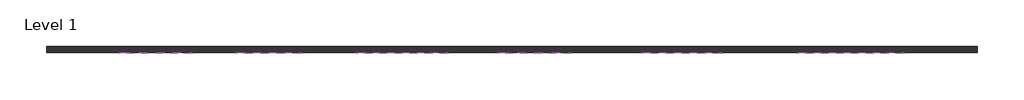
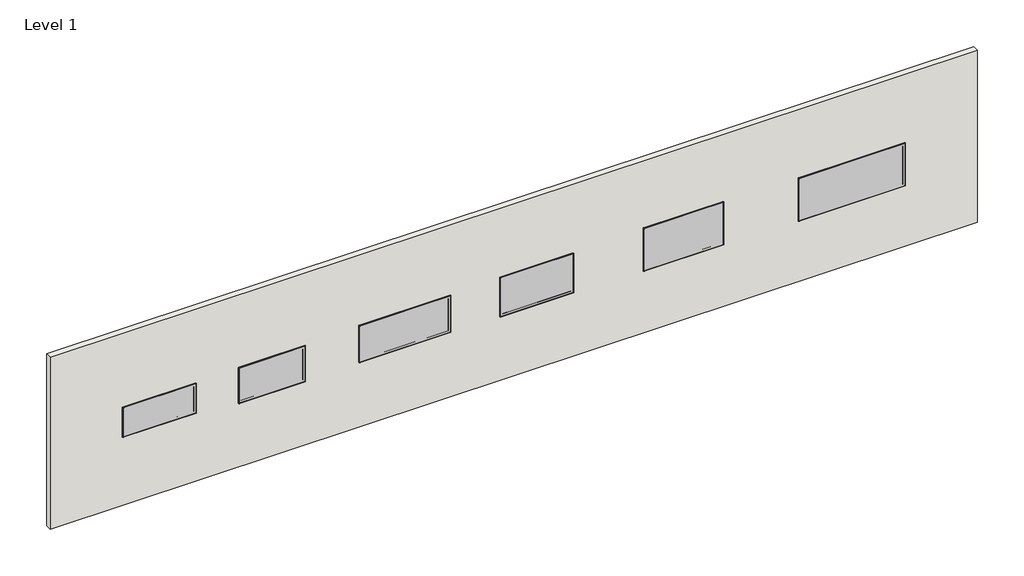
# One storey: 6 proxies, 1 wall.
"""IFC4 building model written with IfcOpenShell, lengths in millimetres."""

from ifc_helpers import new_model, si_unit, origin, origin_with_axes, place, context, project, spatial, polyline, outline, extrude, transform, mapped, element, save
from components import proxy_b318a2da, proxy_2277eccb, proxy_4d024684, proxy_b6d8bd4b, proxy_49ebb362, proxy_a3c1d029

model = new_model("IFC4")

# Units and contexts
model_context = context("Model", 3, world=origin())
ifc_project = project(units=[si_unit("LENGTHUNIT", "METRE", prefix="MILLI")], contexts=[model_context])

# Site, building, storey
site = spatial("IfcSite", under=ifc_project)
building = spatial("IfcBuilding", under=site)
storey = spatial("IfcBuildingStorey", under=building, Name="Level 1", Elevation=0.0)

# Proxies
placement = place(None, origin())
proxy_shape = proxy_b318a2da(model_context)
element("IfcBuildingElementProxy", 1, Name="Electronics-Visual-Projectors_Da-Lite_Specialty-Equipment_Parallax-Thin : 40.5\" x 96\"", ObjectType="Electronics-Visual-Projectors_Da-Lite_Specialty-Equipment_Parallax-Thin : 40.5\" x 96\"", at=placement, inside=storey, context=model_context, shape_type="MappedRepresentation", body=[
    mapped(proxy_shape, transform((-12253.930362, 13996.6187948, 2958.9133611), x_axis=(1.0, 0.0, 0.0), y_axis=(0.0, 0.0, 1.0), z_axis=(0.0, -1.0, 0.0))),
])
proxy_2_shape = proxy_2277eccb(model_context)
element("IfcBuildingElementProxy", 2, Name="Electronics-Visual-Projectors_Da-Lite_Specialty-Equipment_Parallax-Thin : 49\" x 87\"", ObjectType="Electronics-Visual-Projectors_Da-Lite_Specialty-Equipment_Parallax-Thin : 49\" x 87\"", at=placement, inside=storey, context=model_context, shape_type="MappedRepresentation", body=[
    mapped(proxy_2_shape, transform((-8482.030362, 13996.6187948, 2901.4148396), x_axis=(1.0, 0.0, 0.0), y_axis=(0.0, 0.0, 1.0), z_axis=(0.0, -1.0, 0.0))),
])
proxy_3_shape = proxy_4d024684(model_context)
element("IfcBuildingElementProxy", 3, Name="Electronics-Visual-Projectors_Da-Lite_Specialty-Equipment_Parallax-Thin : 50.5\" x 120\"", ObjectType="Electronics-Visual-Projectors_Da-Lite_Specialty-Equipment_Parallax-Thin : 50.5\" x 120\"", at=placement, inside=storey, context=model_context, shape_type="MappedRepresentation", body=[
    mapped(proxy_3_shape, transform((-4024.330362, 13996.6187948, 2956.595229), x_axis=(1.0, 0.0, 0.0), y_axis=(0.0, 0.0, 1.0), z_axis=(0.0, -1.0, 0.0))),
])
proxy_4_shape = proxy_b6d8bd4b(model_context)
element("IfcBuildingElementProxy", 4, Name="Electronics-Visual-Projectors_Da-Lite_Specialty-Equipment_Parallax-Thin : 54\" x 96\"", ObjectType="Electronics-Visual-Projectors_Da-Lite_Specialty-Equipment_Parallax-Thin : 54\" x 96\"", at=placement, inside=storey, context=model_context, shape_type="MappedRepresentation", body=[
    mapped(proxy_4_shape, transform((395.269638, 13996.6187948, 2966.7935024), x_axis=(1.0, 0.0, 0.0), y_axis=(0.0, 0.0, 1.0), z_axis=(0.0, -1.0, 0.0))),
])
proxy_5_shape = proxy_49ebb362(model_context)
element("IfcBuildingElementProxy", 5, Name="Electronics-Visual-Projectors_Da-Lite_Specialty-Equipment_Parallax-Thin : 59\" x 104.5\"", ObjectType="Electronics-Visual-Projectors_Da-Lite_Specialty-Equipment_Parallax-Thin : 59\" x 104.5\"", at=placement, inside=storey, context=model_context, shape_type="MappedRepresentation", body=[
    mapped(proxy_5_shape, transform((5316.519638, 13996.6187948, 2963.2740181), x_axis=(1.0, 0.0, 0.0), y_axis=(0.0, 0.0, 1.0), z_axis=(0.0, -1.0, 0.0))),
])
proxy_6_shape = proxy_a3c1d029(model_context)
element("IfcBuildingElementProxy", 6, Name="Electronics-Visual-Projectors_Da-Lite_Specialty-Equipment_Parallax-Thin : 59\" x 140\"", ObjectType="Electronics-Visual-Projectors_Da-Lite_Specialty-Equipment_Parallax-Thin : 59\" x 140\"", at=placement, inside=storey, context=model_context, shape_type="MappedRepresentation", body=[
    mapped(proxy_6_shape, transform((10961.669638, 13996.6187948, 2917.0316631), x_axis=(1.0, 0.0, 0.0), y_axis=(0.0, 0.0, 1.0), z_axis=(0.0, -1.0, 0.0))),
])

# Wall
element("IfcWall", 7, ObjectType="Generic - 8\"", at=placement, inside=storey, context=model_context, shape_type="SweptSolid", body=[
    extrude(outline(polyline([(15190.769638, 13996.6187948), (-15898.830362, 13996.6187948), (-15898.830362, 14199.8187948), (15190.769638, 14199.8187948), (15190.769638, 13996.6187948)])), origin_with_axes(), (0.0, 0.0, 1.0), 6096.0),
])

save(model, "model.ifc")
